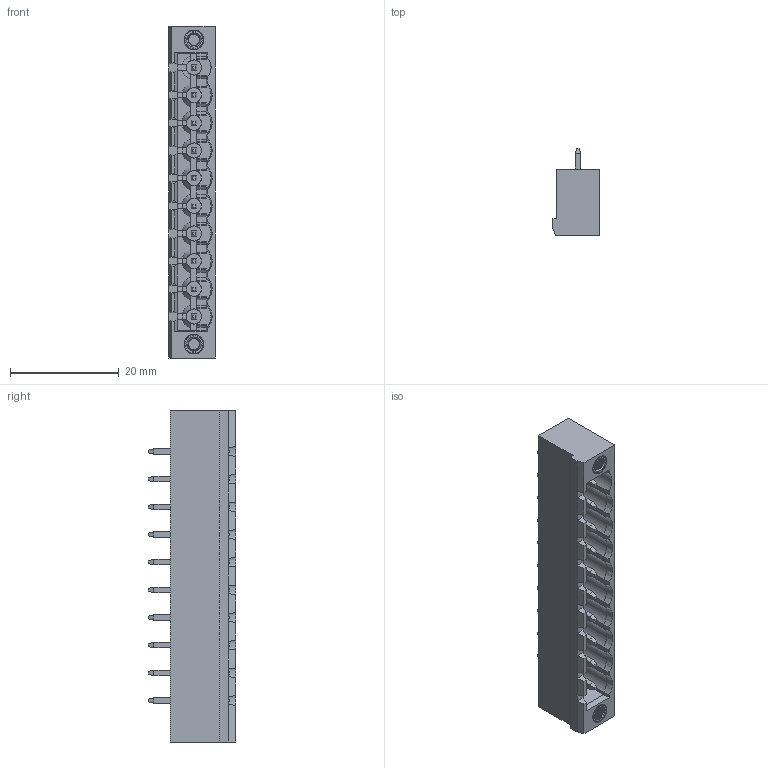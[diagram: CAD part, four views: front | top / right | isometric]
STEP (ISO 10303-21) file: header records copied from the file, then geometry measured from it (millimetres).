
FILE_DESCRIPTION(('Open CASCADE Model'),'2;1');
FILE_NAME('Open CASCADE Shape Model','2022-08-04T11:21:35',('Author'),( 'Open CASCADE'),'Open CASCADE STEP processor 6.5','Open CASCADE 6.5' ,'Unknown');
FILE_SCHEMA(('AUTOMOTIVE_DESIGN { 1 0 10303 214 1 1 1 1 }'));
Length unit declared in the file: millimetre
Products named in the file (1210): CADSOFTTOOLS 11; CADSOFTTOOLS 11.1; CADSOFTTOOLS 11.2; CADSOFTTOOLS 11.3; CADSOFTTOOLS 11.4; CADSOFTTOOLS 11.5; CADSOFTTOOLS 11.6; CADSOFTTOOLS 11.7; CADSOFTTOOLS 11.8; CADSOFTTOOLS 11.9; CADSOFTTOOLS 11.10; CADSOFTTOOLS 11.11; CADSOFTTOOLS 11.12; CADSOFTTOOLS 11.13; CADSOFTTOOLS 11.14; CADSOFTTOOLS 11.15; CADSOFTTOOLS 11.16; CADSOFTTOOLS 11.17; CADSOFTTOOLS 11.18; CADSOFTTOOLS 11.19; CADSOFTTOOLS 11.20; CADSOFTTOOLS 11.21; CADSOFTTOOLS 11.22; CADSOFTTOOLS 11.23; CADSOFTTOOLS 11.24; CADSOFTTOOLS 11.25; CADSOFTTOOLS 11.26; CADSOFTTOOLS 11.27; CADSOFTTOOLS 11.28; CADSOFTTOOLS 11.29; CADSOFTTOOLS 11.30; CADSOFTTOOLS 11.31; CADSOFTTOOLS 11.32; CADSOFTTOOLS 11.33; CADSOFTTOOLS 11.34; CADSOFTTOOLS 11.35; CADSOFTTOOLS 11.36; CADSOFTTOOLS 11.37; CADSOFTTOOLS 11.38; CADSOFTTOOLS 11.39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
Assembly tree (1209 placements, depth 2):
  CADSOFTTOOLS 11
    CADSOFTTOOLS 11.1
    CADSOFTTOOLS 11.2
    CADSOFTTOOLS 11.3
    CADSOFTTOOLS 11.4
    CADSOFTTOOLS 11.5
    CADSOFTTOOLS 11.6
    CADSOFTTOOLS 11.7
    CADSOFTTOOLS 11.8
    CADSOFTTOOLS 11.9
    CADSOFTTOOLS 11.10
    CADSOFTTOOLS 11.11
    CADSOFTTOOLS 11.12
    CADSOFTTOOLS 11.13
    CADSOFTTOOLS 11.14
    CADSOFTTOOLS 11.15
    CADSOFTTOOLS 11.16
    CADSOFTTOOLS 11.17
    CADSOFTTOOLS 11.18
    CADSOFTTOOLS 11.19
    CADSOFTTOOLS 11.20
    CADSOFTTOOLS 11.21
    CADSOFTTOOLS 11.22
    CADSOFTTOOLS 11.23
    CADSOFTTOOLS 11.24
    CADSOFTTOOLS 11.25
    CADSOFTTOOLS 11.26
    CADSOFTTOOLS 11.27
    CADSOFTTOOLS 11.28
    CADSOFTTOOLS 11.29
    CADSOFTTOOLS 11.30
    CADSOFTTOOLS 11.31
    CADSOFTTOOLS 11.32
    CADSOFTTOOLS 11.33
    CADSOFTTOOLS 11.34
    CADSOFTTOOLS 11.35
    CADSOFTTOOLS 11.36
    CADSOFTTOOLS 11.37
    CADSOFTTOOLS 11.38
    CADSOFTTOOLS 11.39
    CADSOFTTOOLS 11.40
    CADSOFTTOOLS 11.41
    CADSOFTTOOLS 11.42
    CADSOFTTOOLS 11.43
    CADSOFTTOOLS 11.44
    CADSOFTTOOLS 11.45
    CADSOFTTOOLS 11.46
    CADSOFTTOOLS 11.47
    CADSOFTTOOLS 11.48
    CADSOFTTOOLS 11.49
    CADSOFTTOOLS 11.50
    CADSOFTTOOLS 11.51
    CADSOFTTOOLS 11.52
    CADSOFTTOOLS 11.53
    CADSOFTTOOLS 11.54
    CADSOFTTOOLS 11.55
    CADSOFTTOOLS 11.56
    CADSOFTTOOLS 11.57
    CADSOFTTOOLS 11.58
    CADSOFTTOOLS 11.59
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Bounding box: 8.5 x 16 x 60.96 mm (x, y, z)
Surface area: 5454 mm2 (no closed solid volume)
Topology: 0 solids, 1209 shells, 1209 faces, 6798 edges, 6778 vertices
Faces by surface type: plane 891, cylinder 132, cone 130, bspline 36, sphere 20
Entity records: 214748 total; most frequent: CARTESIAN_POINT 107826, DIRECTION 15914, LINE 9197, VECTOR 9197, ORIENTED_EDGE 6778, EDGE_CURVE 6778, VERTEX_POINT 6778, SURFACE_CURVE 6778
